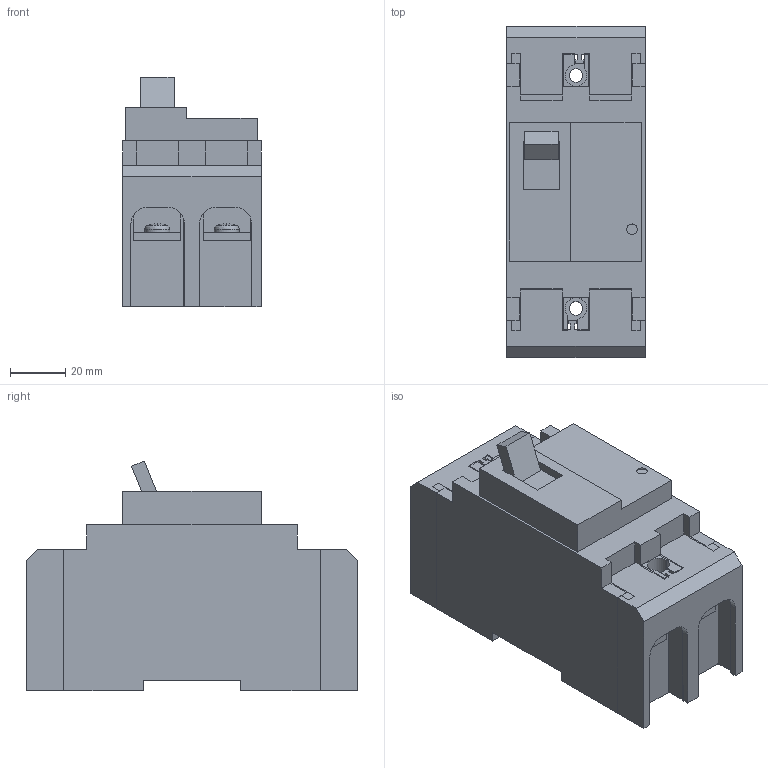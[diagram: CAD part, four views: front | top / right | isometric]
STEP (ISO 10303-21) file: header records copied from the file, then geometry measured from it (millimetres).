
FILE_DESCRIPTION (( 'STEP AP214' ), '1' );
FILE_NAME ('BW50RAGU-2P.STEP', '2013-10-08T01:38:02', ( '川崎工場' ), ( '富士電機システムズ株式会社' ), 'SwSTEP 2.0', 'SolidWorks 2005204', '' );
FILE_SCHEMA (( 'AUTOMOTIVE_DESIGN' ));
Length unit declared in the file: millimetre
Products named in the file (9): BW50RAGU-2P_PLATE3_蹬怮椔; BW50RAGU-2P_PLATE4_蹬怮椔; BW50RAGU-2P_SWITCH_蹬怮椔; BW50RAGU-2P_CASE_蹬怮椔; BW9BTAA-S2_1_蹬怮椔; BW9BTAA-S2_2_蹬怮椔; BW50RAGU-2P; BW50RAGU-2P_PLATE2_蹬怮椔; BW50RAGU-2P_PLATE1_蹬怮椔
Assembly tree (8 placements, depth 2):
  BW50RAGU-2P
    BW50RAGU-2P_PLATE4_蹬怮椔
    BW50RAGU-2P_PLATE1_蹬怮椔
    BW50RAGU-2P_SWITCH_蹬怮椔
    BW50RAGU-2P_PLATE3_蹬怮椔
    BW50RAGU-2P_CASE_蹬怮椔
    BW50RAGU-2P_PLATE2_蹬怮椔
    BW9BTAA-S2_1_蹬怮椔
    BW9BTAA-S2_2_蹬怮椔
Bounding box: 50 x 119.3 x 82.91 mm (x, y, z)
Volume: 291329.9 mm3; surface area: 58753.1 mm2
Topology: 8 solids, 8 shells, 266 faces, 706 edges, 464 vertices
Faces by surface type: plane 206, cylinder 44, bspline 16
Entity records: 11515 total; most frequent: CARTESIAN_POINT 1679, ORIENTED_EDGE 1396, DIRECTION 1340, EDGE_CURVE 698, VECTOR 578, LINE 578, VERTEX_POINT 464, AXIS2_PLACEMENT_3D 381
